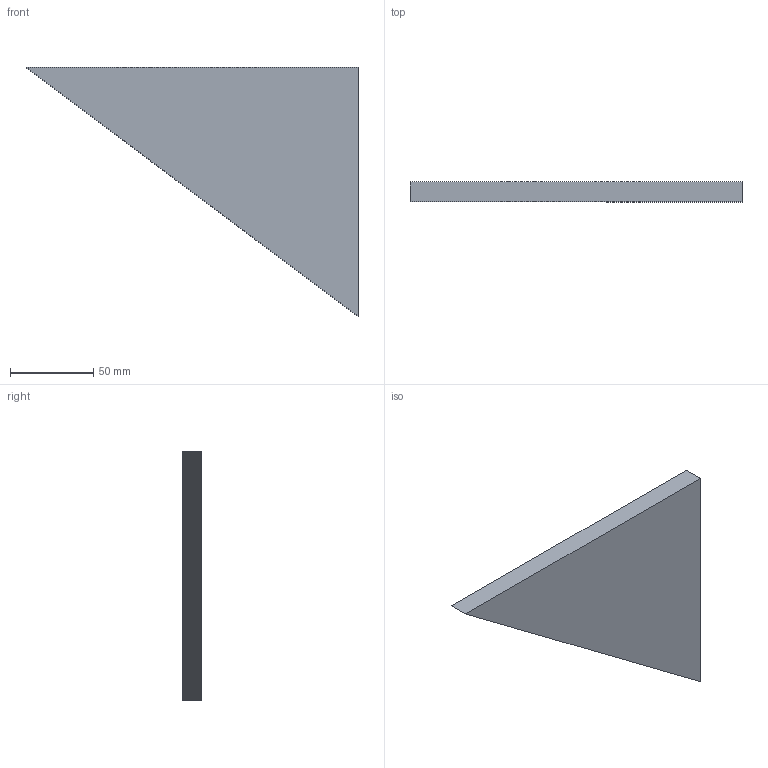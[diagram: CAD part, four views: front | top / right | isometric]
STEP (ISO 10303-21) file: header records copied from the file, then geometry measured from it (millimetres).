
FILE_DESCRIPTION(('Open CASCADE Model'),'2;1');
FILE_NAME('Open CASCADE Shape Model','2026-09-19T12:55:12',('Author'),( 'Open CASCADE'),'Open CASCADE STEP processor 7.9','Open CASCADE 7.9' ,'Unknown');
FILE_SCHEMA(('AUTOMOTIVE_DESIGN { 1 0 10303 214 1 1 1 1 }'));
Length unit declared in the file: millimetre
Products named in the file (1): Open CASCADE STEP translator 7.9 49
Bounding box: 200 x 12 x 150 mm (x, y, z)
Volume: 180000 mm3; surface area: 37200 mm2
Topology: 1 solids, 1 shells, 5 faces, 9 edges, 6 vertices
Faces by surface type: plane 5
Entity records: 250 total; most frequent: CARTESIAN_POINT 39, DIRECTION 39, LINE 27, VECTOR 27, ORIENTED_EDGE 18, PCURVE 18, DEFINITIONAL_REPRESENTATION 18, EDGE_CURVE 9
